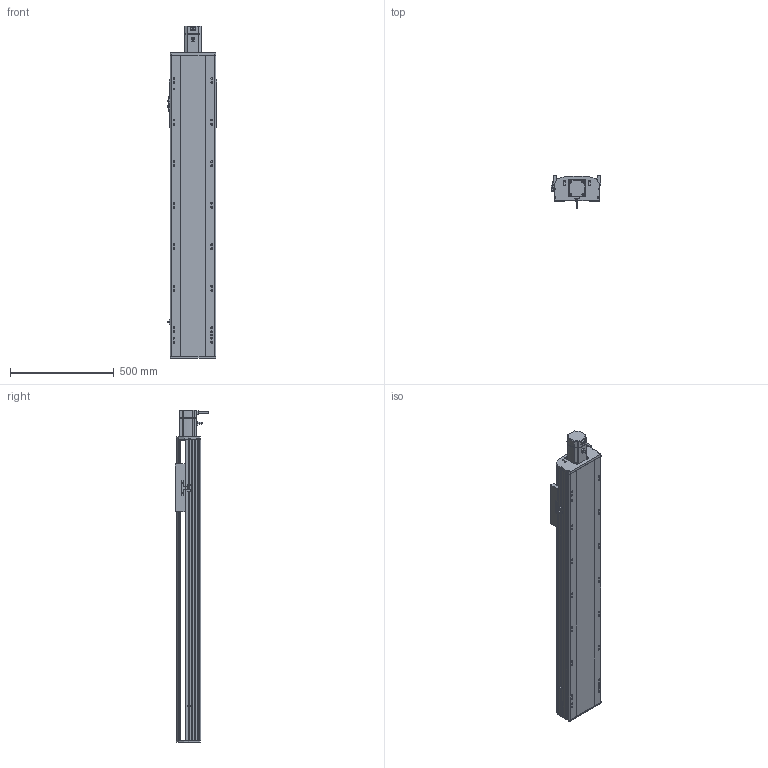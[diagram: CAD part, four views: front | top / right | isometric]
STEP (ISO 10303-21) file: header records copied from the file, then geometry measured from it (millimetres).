
FILE_DESCRIPTION (( 'STEP AP214' ), '1' );
FILE_NAME ('RTH22-XX-1050-E-M75-C4.STEP', '2025-10-24T10:47:25', ( 'Microsoft' ), ( 'Microsoft' ), 'SwSTEP 2.0', 'SolidWorks 2018', '' );
FILE_SCHEMA (( 'AUTOMOTIVE_DESIGN' ));
Length unit declared in the file: millimetre
Products named in the file (9): N_RTH22-E-008萇儂啣^RTH22-XX-XX-E-M75-C4; N_RTH22-GY-013外置感应片^RTH22-XX-XX-E-M75-C4; RTH22-XX-1050-E-M75-C4; N_RTH22-E-011菁釱^RTH22-XX-XX-E-M75-C4; N_RTH22-E-004-SFS25賑釱^RTH22-XX-XX-E-M75-C4; N_RTH22-GY-001耜裔^RTH22-XX-XX-E-M75-C4; N_RTH22-E-007奻裔^RTH22-XX-XX-E-M75-C4; N_OMRON EE-SX672 传感器^RTH22-XX-XX-E-M75-C4; N_750W萇儂^RTH22-XX-XX-E-M75-C4
Assembly tree (10 placements, depth 2):
  RTH22-XX-1050-E-M75-C4
    N_RTH22-E-011菁釱^RTH22-XX-XX-E-M75-C4
    N_RTH22-GY-001耜裔^RTH22-XX-XX-E-M75-C4
    N_RTH22-E-008萇儂啣^RTH22-XX-XX-E-M75-C4
    N_RTH22-E-007奻裔^RTH22-XX-XX-E-M75-C4
    N_RTH22-GY-013外置感应片^RTH22-XX-XX-E-M75-C4
    N_RTH22-E-004-SFS25賑釱^RTH22-XX-XX-E-M75-C4
    N_750W萇儂^RTH22-XX-XX-E-M75-C4
    N_OMRON EE-SX672 传感器^RTH22-XX-XX-E-M75-C4  x3
Bounding box: 238.5 x 160.7 x 1599 mm (x, y, z)
Volume: 20008327.9 mm3; surface area: 2068387.5 mm2
Topology: 10 solids, 10 shells, 1559 faces, 4274 edges, 2759 vertices
Faces by surface type: plane 758, cylinder 460, bspline 279, cone 62
Entity records: 39261 total; most frequent: CARTESIAN_POINT 12265, ORIENTED_EDGE 5516, DIRECTION 5204, EDGE_CURVE 2758, VERTEX_POINT 1795, AXIS2_PLACEMENT_3D 1762, LINE 1680, VECTOR 1680
